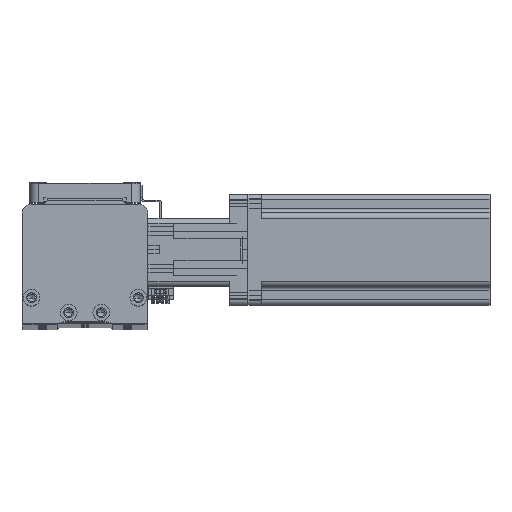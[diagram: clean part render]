
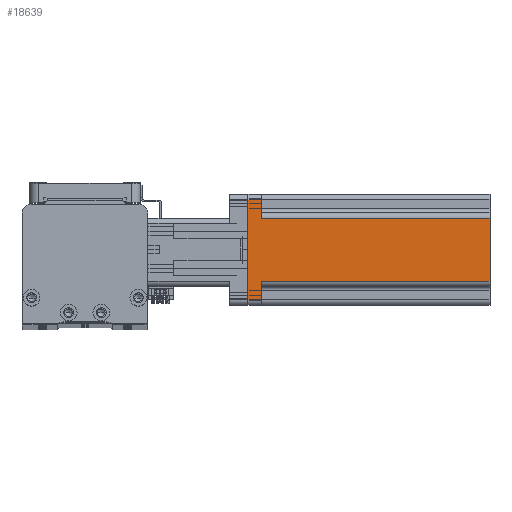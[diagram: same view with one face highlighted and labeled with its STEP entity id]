
A CAD part, top view. The second image highlights one B-rep face of the part: STEP entity #18639.
In plain terms, the highlighted planar face has unit normal (0, 0, 1) as drawn and (1, 0, 0) by its records, which use the part's own axes.
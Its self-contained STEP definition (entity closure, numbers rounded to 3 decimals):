
#1186 = CARTESIAN_POINT ( 'NONE',  ( 30., 17., 130.7 ) ) ;
#2854 = DIRECTION ( 'NONE',  ( 0., 0., -1. ) ) ;
#6391 = VECTOR ( 'NONE', #8223, 1000. ) ;
#6443 = VECTOR ( 'NONE', #6510, 1000. ) ;
#6510 = DIRECTION ( 'NONE',  ( 0., -1., 0. ) ) ;
#6695 = PLANE ( 'NONE',  #50234 ) ;
#7367 = CARTESIAN_POINT ( 'NONE',  ( 30., -27., 7.5 ) ) ;
#7378 = CARTESIAN_POINT ( 'NONE',  ( 30., 27., 7.5 ) ) ;
#7651 = VECTOR ( 'NONE', #47467, 1000. ) ;
#8049 = CARTESIAN_POINT ( 'NONE',  ( 30., 30., 7.5 ) ) ;
#8064 = CARTESIAN_POINT ( 'NONE',  ( 30., 27., 0. ) ) ;
#8223 = DIRECTION ( 'NONE',  ( 0., 0., 1. ) ) ;
#9443 = VECTOR ( 'NONE', #19012, 1000. ) ;
#9628 = EDGE_LOOP ( 'NONE', ( #22940, #40592, #44894, #20602, #24328, #20718, #14929, #43359 ) ) ;
#9839 = CARTESIAN_POINT ( 'NONE',  ( 30., -27., 0. ) ) ;
#13156 = DIRECTION ( 'NONE',  ( 0., 1., 0. ) ) ;
#14537 = FACE_OUTER_BOUND ( 'NONE', #9628, .T. ) ;
#14873 = DIRECTION ( 'NONE',  ( -1., 0., 0. ) ) ;
#14929 = ORIENTED_EDGE ( 'NONE', *, *, #37664, .F. ) ;
#15085 = VERTEX_POINT ( 'NONE', #15650 ) ;
#15094 = CARTESIAN_POINT ( 'NONE',  ( 30., -30., 130.7 ) ) ;
#15650 = CARTESIAN_POINT ( 'NONE',  ( 30., -17., 130.7 ) ) ;
#17106 = LINE ( 'NONE', #18456, #6443 ) ;
#17222 = CARTESIAN_POINT ( 'NONE',  ( 30., -30., 0. ) ) ;
#18385 = VECTOR ( 'NONE', #49907, 1000. ) ;
#18456 = CARTESIAN_POINT ( 'NONE',  ( 30., -30., 7.5 ) ) ;
#18639 = ADVANCED_FACE ( 'NONE', ( #14537 ), #6695, .F. ) ;
#19012 = DIRECTION ( 'NONE',  ( 0., 1., 0. ) ) ;
#19422 = VERTEX_POINT ( 'NONE', #1186 ) ;
#20008 = DIRECTION ( 'NONE',  ( 0., 0., 1. ) ) ;
#20602 = ORIENTED_EDGE ( 'NONE', *, *, #37479, .T. ) ;
#20718 = ORIENTED_EDGE ( 'NONE', *, *, #37654, .T. ) ;
#22476 = CARTESIAN_POINT ( 'NONE',  ( 30., -17., 7.5 ) ) ;
#22736 = LINE ( 'NONE', #26733, #43569 ) ;
#22940 = ORIENTED_EDGE ( 'NONE', *, *, #36190, .F. ) ;
#24328 = ORIENTED_EDGE ( 'NONE', *, *, #34699, .T. ) ;
#24732 = VERTEX_POINT ( 'NONE', #8064 ) ;
#26353 = LINE ( 'NONE', #32211, #6391 ) ;
#26529 = VERTEX_POINT ( 'NONE', #7378 ) ;
#26733 = CARTESIAN_POINT ( 'NONE',  ( 30., -27., 130.7 ) ) ;
#26928 = VERTEX_POINT ( 'NONE', #29466 ) ;
#27001 = VECTOR ( 'NONE', #13156, 1000. ) ;
#28243 = LINE ( 'NONE', #17222, #27001 ) ;
#28854 = VECTOR ( 'NONE', #20008, 1000. ) ;
#29466 = CARTESIAN_POINT ( 'NONE',  ( 30., -17., 7.5 ) ) ;
#31320 = LINE ( 'NONE', #47278, #28854 ) ;
#32211 = CARTESIAN_POINT ( 'NONE',  ( 30., 17., 130.7 ) ) ;
#34498 = VERTEX_POINT ( 'NONE', #47513 ) ;
#34699 = EDGE_CURVE ( 'NONE', #46238, #24732, #28243, .T. ) ;
#36190 = EDGE_CURVE ( 'NONE', #15085, #19422, #46507, .T. ) ;
#37408 = EDGE_CURVE ( 'NONE', #15085, #26928, #39306, .T. ) ;
#37418 = EDGE_CURVE ( 'NONE', #26928, #42068, #17106, .T. ) ;
#37479 = EDGE_CURVE ( 'NONE', #42068, #46238, #22736, .T. ) ;
#37654 = EDGE_CURVE ( 'NONE', #24732, #26529, #31320, .T. ) ;
#37664 = EDGE_CURVE ( 'NONE', #34498, #26529, #39251, .T. ) ;
#37738 = EDGE_CURVE ( 'NONE', #34498, #19422, #26353, .T. ) ;
#38560 = CARTESIAN_POINT ( 'NONE',  ( 30., -30., 130.7 ) ) ;
#39251 = LINE ( 'NONE', #8049, #7651 ) ;
#39306 = LINE ( 'NONE', #22476, #18385 ) ;
#40592 = ORIENTED_EDGE ( 'NONE', *, *, #37408, .T. ) ;
#42068 = VERTEX_POINT ( 'NONE', #7367 ) ;
#42521 = DIRECTION ( 'NONE',  ( 0., 0., 1. ) ) ;
#43359 = ORIENTED_EDGE ( 'NONE', *, *, #37738, .T. ) ;
#43569 = VECTOR ( 'NONE', #2854, 1000. ) ;
#44894 = ORIENTED_EDGE ( 'NONE', *, *, #37418, .T. ) ;
#46238 = VERTEX_POINT ( 'NONE', #9839 ) ;
#46507 = LINE ( 'NONE', #15094, #9443 ) ;
#47278 = CARTESIAN_POINT ( 'NONE',  ( 30., 27., 130.7 ) ) ;
#47467 = DIRECTION ( 'NONE',  ( 0., 1., 0. ) ) ;
#47513 = CARTESIAN_POINT ( 'NONE',  ( 30., 17., 7.5 ) ) ;
#49907 = DIRECTION ( 'NONE',  ( 0., 0., -1. ) ) ;
#50234 = AXIS2_PLACEMENT_3D ( 'NONE', #38560, #14873, #42521 ) ;
